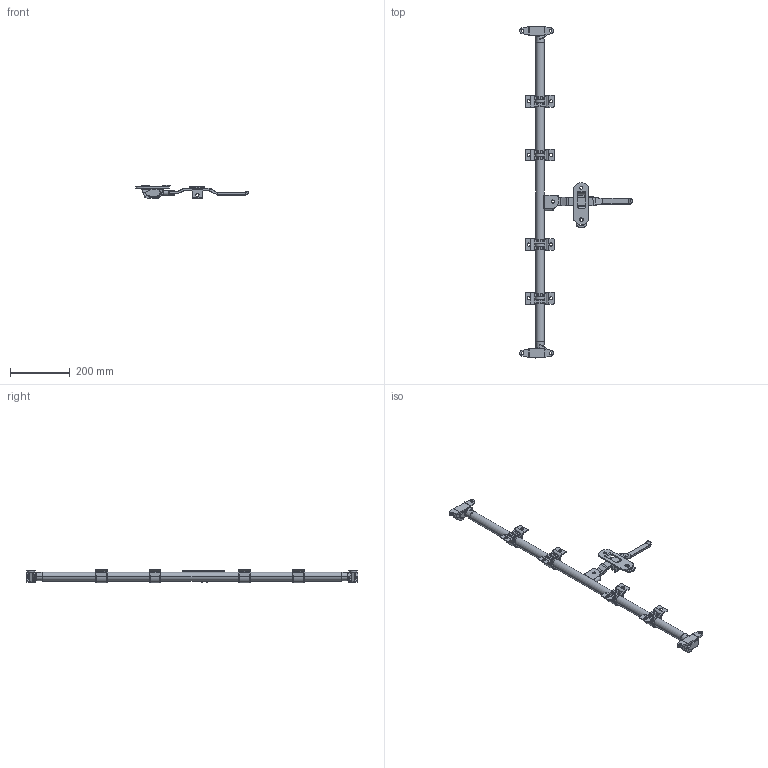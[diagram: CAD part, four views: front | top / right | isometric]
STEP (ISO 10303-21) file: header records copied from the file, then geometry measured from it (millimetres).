
FILE_DESCRIPTION (( 'STEP AP214' ), '1' );
FILE_NAME ('A26 KA-1950.STEP', '2013-01-21T07:41:37', ( 'KJ27' ), ( 'KONGJIN' ), 'SwSTEP 2.0', 'SolidWorks 2011', '' );
FILE_SCHEMA (( 'AUTOMOTIVE_DESIGN' ));
Length unit declared in the file: millimetre
Products named in the file (12): HANDLE HUB_1; HANDLE RETAINER A_1; CAM_1; BEARING BRACKET_1; KEEPER_1; A26 KA-1950; HOLDER COVER_1; HOLDER_1; PIPE_1; HANDLE RETAINER B_1; HANDLE RETAINER C_1; HANDLE
Assembly tree (22 placements, depth 2):
  A26 KA-1950
    BEARING BRACKET_1  x4
    HOLDER COVER_1  x4
    HANDLE
    PIPE_1
    CAM_1  x2
    HANDLE RETAINER C_1
    HOLDER_1  x4
    HANDLE RETAINER B_1
    KEEPER_1  x2
    HANDLE HUB_1
    HANDLE RETAINER A_1
Bounding box: 377.4 x 1112 x 46 mm (x, y, z)
Volume: 743294.7 mm3; surface area: 363680.9 mm2
Topology: 22 solids, 22 shells, 1287 faces, 3273 edges, 2008 vertices
Faces by surface type: cylinder 525, plane 441, bspline 298, cone 23
Entity records: 34093 total; most frequent: CARTESIAN_POINT 11410, ORIENTED_EDGE 3316, DIRECTION 2852, EDGE_CURVE 1658, AXIS2_PLACEMENT_3D 1059, VERTEX_POINT 1013, VECTOR 734, LINE 734
